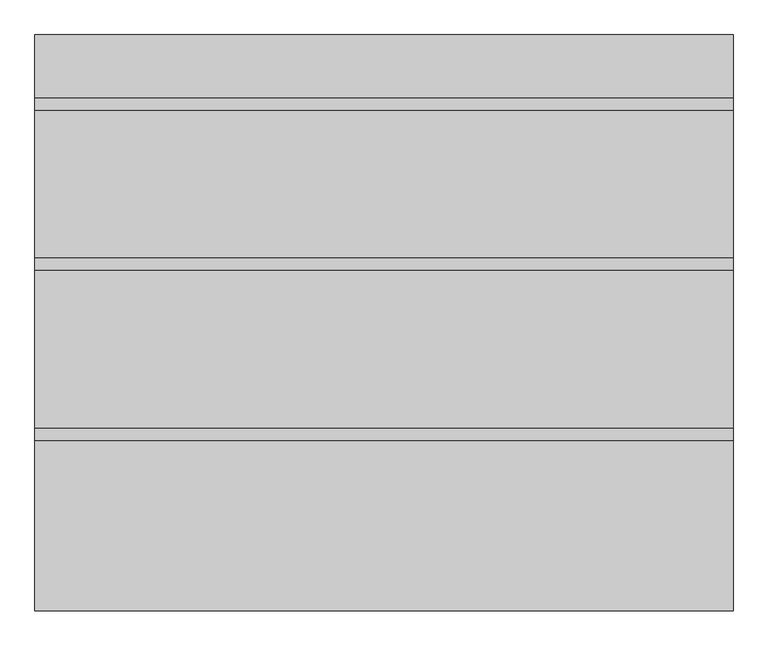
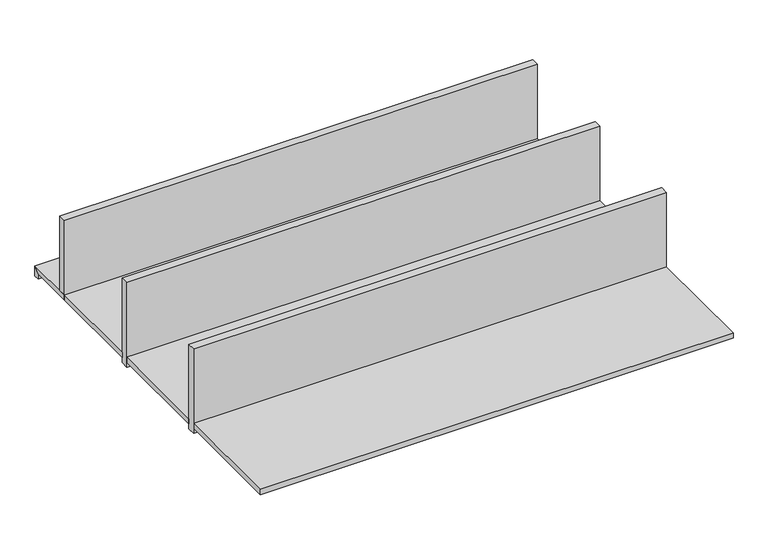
"""IFC4 building model written with IfcOpenShell, lengths in millimetres: proxy geometry, BASYS^OFFICE 7_WALL HUNG-LEFT UNIT."""

from ifc_helpers import new_model, si_unit, frame, origin, origin_with_axes, place, context, project, spatial, polyline, outline, extrude, source, transform, mapped, element, save


def generic_models_91c993ae(model_context):
    return source(origin(), model_context, "Body", "SweptSolid", [
        extrude(outline(polyline([(1676.4, 0.0), (0.0, 0.0), (0.0, 28.575), (1676.4, 28.575), (1676.4, 0.0)])), frame((0.0, 0.0, 19.05), z_axis=(0.0, 0.0, 1.0), x_axis=(1.0, 0.0, 0.0)), (0.0, 0.0, 1.0), 279.4),
        extrude(outline(polyline([(0.0, -384.175), (1676.4, -384.175), (1676.4, -765.175), (0.0, -765.175), (0.0, -384.175)])), origin_with_axes(), (0.0, 0.0, 1.0), 19.05),
        extrude(outline(polyline([(0.0, 0.0), (1676.4, 0.0), (1676.4, -355.6), (0.0, -355.6), (0.0, 0.0)])), origin_with_axes(), (0.0, 0.0, 1.0), 19.05),
        extrude(outline(polyline([(0.0, -765.175), (1676.4, -765.175), (1676.4, -793.75), (0.0, -793.75), (0.0, -765.175)])), frame((0.0, 0.0, -19.05), z_axis=(0.0, 0.0, 1.0), x_axis=(1.0, 0.0, 0.0)), (0.0, 0.0, 1.0), 317.5),
        extrude(outline(polyline([(0.0, -793.75), (1676.4, -793.75), (1676.4, -1203.325), (0.0, -1203.325), (0.0, -793.75)])), origin_with_axes(), (0.0, 0.0, 1.0), 19.05),
        extrude(outline(polyline([(180.975, 19.05), (161.925, 0.0), (0.0, 0.0), (0.0, 19.05), (180.975, 19.05)])), frame((0.0, 0.0, 0.0), z_axis=(1.0, 0.0, 0.0), x_axis=(0.0, 1.0, 0.0)), (0.0, 0.0, 1.0), 1676.4),
        extrude(outline(polyline([(0.0, -355.6), (1676.4, -355.6), (1676.4, -384.175), (0.0, -384.175), (0.0, -355.6)])), frame((0.0, 0.0, -19.05), z_axis=(0.0, 0.0, 1.0), x_axis=(1.0, 0.0, 0.0)), (0.0, 0.0, 1.0), 317.5),
        extrude(outline(polyline([(180.975, 19.05), (180.975, -19.05), (161.925, -19.05), (161.925, 0.0), (180.975, 19.05)])), frame((0.0, 0.0, 0.0), z_axis=(1.0, 0.0, 0.0), x_axis=(0.0, 1.0, 0.0)), (0.0, 0.0, 1.0), 1676.4),
    ])


if __name__ == "__main__":
    model = new_model("IFC4")
    model_context = context("Model", 3, world=origin())
    ifc_project = project(units=[si_unit("LENGTHUNIT", "METRE", prefix="MILLI")], contexts=[model_context])
    site = spatial("IfcSite", under=ifc_project)
    building = spatial("IfcBuilding", under=site)
    placement = place(None, origin())
    generic_models_shape = generic_models_91c993ae(model_context)
    element("IfcBuildingElementProxy", 1, Name="BASYS^OFFICE 7_WALL HUNG-LEFT UNIT", ObjectType="BASYS^OFFICE 7_WALL HUNG-LEFT UNIT", at=placement, inside=building, context=model_context, shape_type="MappedRepresentation", body=[
        mapped(generic_models_shape, transform((0.0, 0.0, 0.0), x_axis=(1.0, 0.0, 0.0), y_axis=(0.0, 1.0, 0.0), z_axis=(0.0, 0.0, 1.0))),
    ])
    save(model, "model.ifc")
